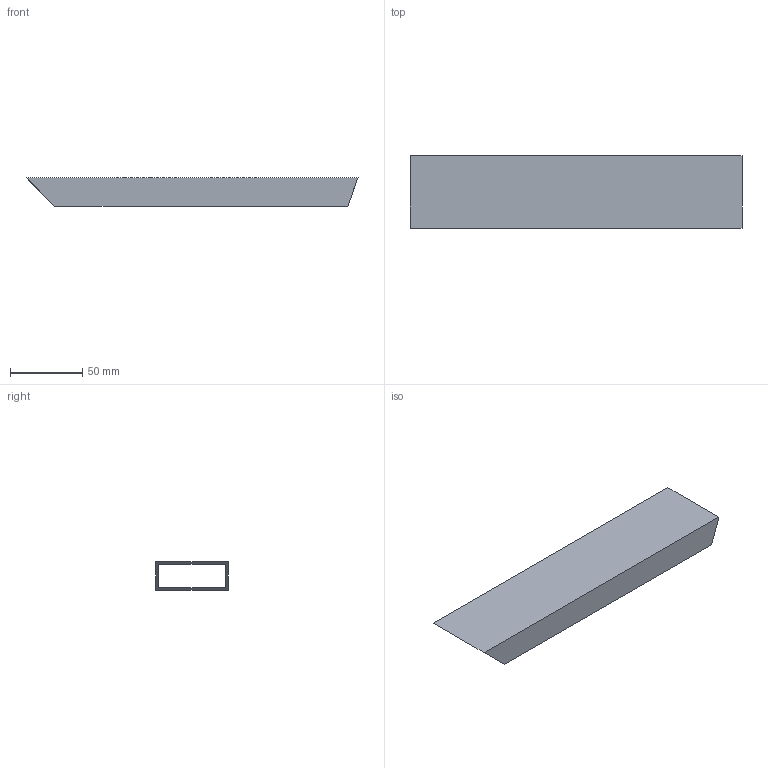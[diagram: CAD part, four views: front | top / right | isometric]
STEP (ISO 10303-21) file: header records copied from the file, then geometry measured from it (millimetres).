
FILE_DESCRIPTION(/* description */ (''),/* implementation_level */ '2;1');
FILE_NAME(/* name */ 'Pos129-Koker 50x20x2 EN 10219-2-S235JRH-1st',/* time_stamp */ '2024-08-06T13:49:48+02:00',/* author */ (''),/* organization */ (''),/* preprocessor_version */ 'ST-DEVELOPER v16.5',/* originating_system */ 'HiCAD 2024 2901.2 Build 361',/* authorisation */ '');
FILE_SCHEMA (('AUTOMOTIVE_DESIGN { 1 0 10303 214 1 1 1 1 }'));
Length unit declared in the file: millimetre
Products named in the file (1): Pos129-Koker 50x20x2 EN 10219-2-S235JRH-1st
Bounding box: 230.16 x 50 x 20 mm (x, y, z)
Volume: 57187.6 mm3; surface area: 57841 mm2
Topology: 1 solids, 1 shells, 10 faces, 24 edges, 16 vertices
Faces by surface type: plane 10
Entity records: 550 total; most frequent: CARTESIAN_POINT 50, PRESENTATION_STYLE_ASSIGNMENT 49, COLOUR_RGB 49, DRAUGHTING_PRE_DEFINED_CURVE_FONT 48, CURVE_STYLE 48, OVER_RIDING_STYLED_ITEM 48, ORIENTED_EDGE 48, DIRECTION 44
